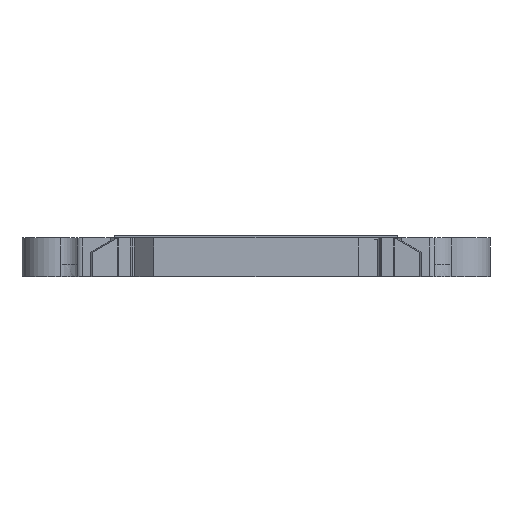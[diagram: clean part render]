
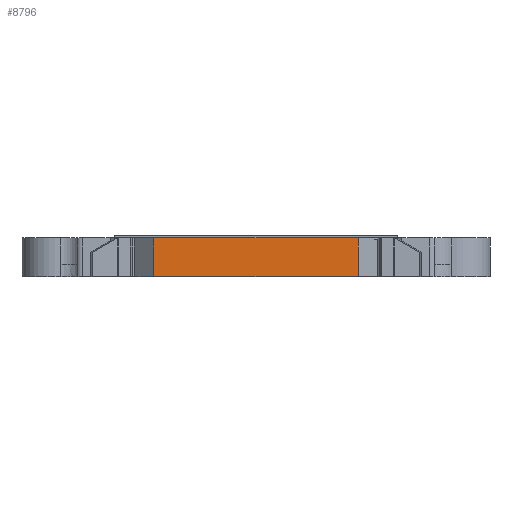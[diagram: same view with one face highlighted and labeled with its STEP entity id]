
A CAD part, front view. The second image highlights one B-rep face of the part: STEP entity #8796.
In plain terms, the highlighted planar face has unit normal (0, -1, 0).
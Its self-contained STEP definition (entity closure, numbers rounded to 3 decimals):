
#72 = PLANE('',#73);
#73 = AXIS2_PLACEMENT_3D('',#74,#75,#76);
#74 = CARTESIAN_POINT('',(11.19,-24.806,8.4));
#75 = DIRECTION('',(0.,0.,1.));
#76 = DIRECTION('',(0.999,-0.035,0.));
#126 = PLANE('',#127);
#127 = AXIS2_PLACEMENT_3D('',#128,#129,#130);
#128 = CARTESIAN_POINT('',(11.19,-24.806,5.2));
#129 = DIRECTION('',(0.,0.,1.));
#130 = DIRECTION('',(0.999,-0.035,0.));
#3067 = VERTEX_POINT('',#3068);
#3068 = CARTESIAN_POINT('',(-8.417,-35.5,8.4));
#3082 = PLANE('',#3083);
#3083 = AXIS2_PLACEMENT_3D('',#3084,#3085,#3086);
#3084 = CARTESIAN_POINT('',(-11.522,-32.502,5.2));
#3085 = DIRECTION('',(0.695,0.719,-0.));
#3086 = DIRECTION('',(0.719,-0.695,0.));
#3094 = EDGE_CURVE('',#3067,#3095,#3097,.T.);
#3095 = VERTEX_POINT('',#3096);
#3096 = CARTESIAN_POINT('',(8.417,-35.5,8.4));
#3097 = SURFACE_CURVE('',#3098,(#3102,#3109),.PCURVE_S1.);
#3098 = LINE('',#3099,#3100);
#3099 = CARTESIAN_POINT('',(-12.208,-35.5,8.4));
#3100 = VECTOR('',#3101,1.);
#3101 = DIRECTION('',(1.,0.,0.));
#3102 = PCURVE('',#72,#3103);
#3103 = DEFINITIONAL_REPRESENTATION('',(#3104),#3108);
#3104 = LINE('',#3105,#3106);
#3105 = CARTESIAN_POINT('',(-23.011,-11.504));
#3106 = VECTOR('',#3107,1.);
#3107 = DIRECTION('',(0.999,0.035));
#3108 = ( GEOMETRIC_REPRESENTATION_CONTEXT(2) 
PARAMETRIC_REPRESENTATION_CONTEXT() REPRESENTATION_CONTEXT('2D SPACE',''
  ) );
#3109 = PCURVE('',#3110,#3115);
#3110 = PLANE('',#3111);
#3111 = AXIS2_PLACEMENT_3D('',#3112,#3113,#3114);
#3112 = CARTESIAN_POINT('',(-11.417,-35.5,6.2));
#3113 = DIRECTION('',(0.,1.,0.));
#3114 = DIRECTION('',(1.,0.,0.));
#3115 = DEFINITIONAL_REPRESENTATION('',(#3116),#3120);
#3116 = LINE('',#3117,#3118);
#3117 = CARTESIAN_POINT('',(-0.792,-2.2));
#3118 = VECTOR('',#3119,1.);
#3119 = DIRECTION('',(1.,0.));
#3120 = ( GEOMETRIC_REPRESENTATION_CONTEXT(2) 
PARAMETRIC_REPRESENTATION_CONTEXT() REPRESENTATION_CONTEXT('2D SPACE',''
  ) );
#3138 = PLANE('',#3139);
#3139 = AXIS2_PLACEMENT_3D('',#3140,#3141,#3142);
#3140 = CARTESIAN_POINT('',(11.522,-32.502,5.2));
#3141 = DIRECTION('',(0.695,-0.719,0.));
#3142 = DIRECTION('',(-0.719,-0.695,0.));
#8751 = VERTEX_POINT('',#8752);
#8752 = CARTESIAN_POINT('',(8.417,-35.5,5.2));
#8776 = EDGE_CURVE('',#3095,#8751,#8777,.T.);
#8777 = SURFACE_CURVE('',#8778,(#8782,#8789),.PCURVE_S1.);
#8778 = LINE('',#8779,#8780);
#8779 = CARTESIAN_POINT('',(8.417,-35.5,8.4));
#8780 = VECTOR('',#8781,1.);
#8781 = DIRECTION('',(0.,0.,-1.));
#8782 = PCURVE('',#3138,#8783);
#8783 = DEFINITIONAL_REPRESENTATION('',(#8784),#8788);
#8784 = LINE('',#8785,#8786);
#8785 = CARTESIAN_POINT('',(4.316,-3.2));
#8786 = VECTOR('',#8787,1.);
#8787 = DIRECTION('',(-0.,1.));
#8788 = ( GEOMETRIC_REPRESENTATION_CONTEXT(2) 
PARAMETRIC_REPRESENTATION_CONTEXT() REPRESENTATION_CONTEXT('2D SPACE',''
  ) );
#8789 = PCURVE('',#3110,#8790);
#8790 = DEFINITIONAL_REPRESENTATION('',(#8791),#8795);
#8791 = LINE('',#8792,#8793);
#8792 = CARTESIAN_POINT('',(19.834,-2.2));
#8793 = VECTOR('',#8794,1.);
#8794 = DIRECTION('',(0.,1.));
#8795 = ( GEOMETRIC_REPRESENTATION_CONTEXT(2) 
PARAMETRIC_REPRESENTATION_CONTEXT() REPRESENTATION_CONTEXT('2D SPACE',''
  ) );
#8796 = ADVANCED_FACE('',(#8797),#3110,.F.);
#8797 = FACE_BOUND('',#8798,.F.);
#8798 = EDGE_LOOP('',(#8799,#8822,#8843,#8844));
#8799 = ORIENTED_EDGE('',*,*,#8800,.F.);
#8800 = EDGE_CURVE('',#8801,#8751,#8803,.T.);
#8801 = VERTEX_POINT('',#8802);
#8802 = CARTESIAN_POINT('',(-8.417,-35.5,5.2));
#8803 = SURFACE_CURVE('',#8804,(#8808,#8815),.PCURVE_S1.);
#8804 = LINE('',#8805,#8806);
#8805 = CARTESIAN_POINT('',(-10.533,-35.5,5.2));
#8806 = VECTOR('',#8807,1.);
#8807 = DIRECTION('',(1.,0.,0.));
#8808 = PCURVE('',#3110,#8809);
#8809 = DEFINITIONAL_REPRESENTATION('',(#8810),#8814);
#8810 = LINE('',#8811,#8812);
#8811 = CARTESIAN_POINT('',(0.883,1.));
#8812 = VECTOR('',#8813,1.);
#8813 = DIRECTION('',(1.,0.));
#8814 = ( GEOMETRIC_REPRESENTATION_CONTEXT(2) 
PARAMETRIC_REPRESENTATION_CONTEXT() REPRESENTATION_CONTEXT('2D SPACE',''
  ) );
#8815 = PCURVE('',#126,#8816);
#8816 = DEFINITIONAL_REPRESENTATION('',(#8817),#8821);
#8817 = LINE('',#8818,#8819);
#8818 = CARTESIAN_POINT('',(-21.337,-11.446));
#8819 = VECTOR('',#8820,1.);
#8820 = DIRECTION('',(0.999,0.035));
#8821 = ( GEOMETRIC_REPRESENTATION_CONTEXT(2) 
PARAMETRIC_REPRESENTATION_CONTEXT() REPRESENTATION_CONTEXT('2D SPACE',''
  ) );
#8822 = ORIENTED_EDGE('',*,*,#8823,.F.);
#8823 = EDGE_CURVE('',#3067,#8801,#8824,.T.);
#8824 = SURFACE_CURVE('',#8825,(#8829,#8836),.PCURVE_S1.);
#8825 = LINE('',#8826,#8827);
#8826 = CARTESIAN_POINT('',(-8.417,-35.5,8.4));
#8827 = VECTOR('',#8828,1.);
#8828 = DIRECTION('',(0.,0.,-1.));
#8829 = PCURVE('',#3110,#8830);
#8830 = DEFINITIONAL_REPRESENTATION('',(#8831),#8835);
#8831 = LINE('',#8832,#8833);
#8832 = CARTESIAN_POINT('',(3.,-2.2));
#8833 = VECTOR('',#8834,1.);
#8834 = DIRECTION('',(0.,1.));
#8835 = ( GEOMETRIC_REPRESENTATION_CONTEXT(2) 
PARAMETRIC_REPRESENTATION_CONTEXT() REPRESENTATION_CONTEXT('2D SPACE',''
  ) );
#8836 = PCURVE('',#3082,#8837);
#8837 = DEFINITIONAL_REPRESENTATION('',(#8838),#8842);
#8838 = LINE('',#8839,#8840);
#8839 = CARTESIAN_POINT('',(4.316,-3.2));
#8840 = VECTOR('',#8841,1.);
#8841 = DIRECTION('',(0.,1.));
#8842 = ( GEOMETRIC_REPRESENTATION_CONTEXT(2) 
PARAMETRIC_REPRESENTATION_CONTEXT() REPRESENTATION_CONTEXT('2D SPACE',''
  ) );
#8843 = ORIENTED_EDGE('',*,*,#3094,.T.);
#8844 = ORIENTED_EDGE('',*,*,#8776,.T.);
